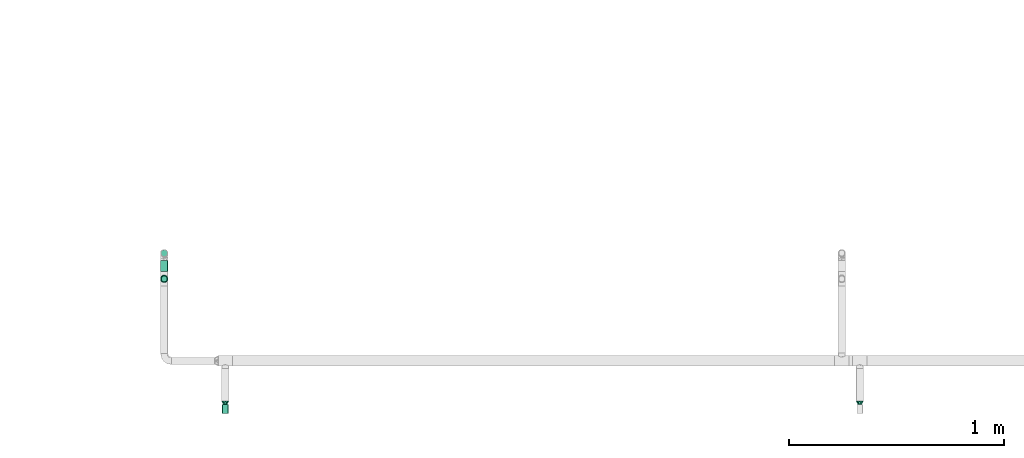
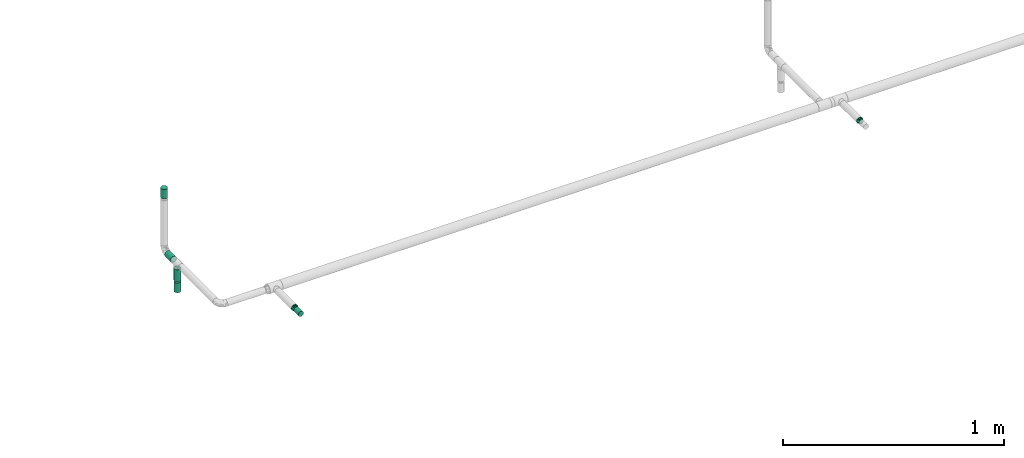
# One storey, part 21 of 51: 3 flow terminals, 2 flow fittings, 2 flow segments.
"""IFC2X3 building model written with IfcOpenShell, lengths in millimetres."""

from ifc_helpers import new_model, entity, si_unit, converted_unit, derived_unit, direction, frame, origin_with_axes, origin_2d_with_axis, place, context, subcontext, project, spatial, hollow_circle, extrude, open_shell, surface_model, source, transform, mapped, type_object, element, save


model = new_model("IFC2X3")

# Units and contexts
model_context = context("Model", 3, precision=0.01, world=frame((0.0, 4.29681676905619e-09, 0.0)), true_north=direction((4.01073788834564e-13, 1.0)))
plan_context = context("Plan", 3, precision=0.01, world=frame((0.0, 4.29681676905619e-09, 0.0)), true_north=direction((4.01073788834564e-13, 1.0)))
body_context = subcontext(model_context, "Body", "Model", "MODEL_VIEW")
ifc_project = project(units=[converted_unit("PLANEANGLEUNIT", "DEGREE", entity("IfcPositiveLengthMeasure", 0.0174532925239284), si_unit("PLANEANGLEUNIT", "RADIAN"), dimensions=[0, 0, 0, 0, 0, 0, 0]), si_unit("AREAUNIT", "SQUARE_METRE"), si_unit("LENGTHUNIT", "METRE", prefix="MILLI"), si_unit("MASSUNIT", "GRAM", prefix="KILO"), si_unit("POWERUNIT", "WATT"), si_unit("PRESSUREUNIT", "PASCAL"), si_unit("FORCEUNIT", "NEWTON", prefix="KILO"), si_unit("ELECTRICVOLTAGEUNIT", "VOLT"), si_unit("ELECTRICCURRENTUNIT", "AMPERE"), si_unit("THERMODYNAMICTEMPERATUREUNIT", "DEGREE_CELSIUS"), si_unit("TIMEUNIT", "SECOND"), si_unit("VOLUMEUNIT", "CUBIC_METRE"), derived_unit("LINEARVELOCITYUNIT", [(si_unit("LENGTHUNIT", "METRE"), 1), (si_unit("TIMEUNIT", "SECOND"), -1)]), derived_unit("VOLUMETRICFLOWRATEUNIT", [(si_unit("VOLUMEUNIT", "CUBIC_METRE"), 1), (si_unit("TIMEUNIT", "SECOND"), -1)]), derived_unit("THERMALTRANSMITTANCEUNIT", [(si_unit("POWERUNIT", "WATT"), 1), (si_unit("THERMODYNAMICTEMPERATUREUNIT", "KELVIN"), -1), (si_unit("AREAUNIT", "SQUARE_METRE"), -1)]), derived_unit("SOUNDPRESSUREUNIT", [(si_unit("PRESSUREUNIT", "PASCAL"), 1)])], contexts=[model_context, plan_context])

# Site, building, storey
site_placement = place(None, frame((0.0, -4.29681676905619e-09, 0.0), z_axis=(0.0, 0.0, 1.0), x_axis=(1.0, 0.0, 0.0)))
site = spatial("IfcSite", under=ifc_project, at=site_placement, Name="ENGM", CompositionType="ELEMENT")
building_placement = place(site_placement, frame((0.0, 4.29681676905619e-09, 0.0), z_axis=(0.0, 0.0, 1.0), x_axis=(1.0, 0.0, 0.0)))
building = spatial("IfcBuilding", under=site, at=building_placement, Name="TH", CompositionType="ELEMENT")
storey_placement = place(building_placement, frame((0.0, 0.0, 210200.0), z_axis=(0.0, 0.0, 1.0), x_axis=(1.0, 0.0, 0.0)))
storey = spatial("IfcBuildingStorey", under=building, at=storey_placement, Name="Nivå F - 0,7 m", CompositionType="ELEMENT", Elevation=210200.0)

# Flow fittings
pipe_fitting_type = type_object("IfcPipeFittingType", Name="magi_pipe_fe_reducer_centric_short_NOR", PredefinedType="TRANSITION")
shared_shape_1 = source(origin_with_axes(), body_context, "Body", "SurfaceModel", [
    surface_model("IfcShellBasedSurfaceModel", [(14.4, 5.35, -9.26647), (14.4, 0.0, -10.7), (14.4, 2.76936, -10.33541), (14.4, 10.33541, -2.76936), (14.4, 7.56604, -7.56604), (14.4, 9.26647, -5.35), (14.4, -5.35, -9.26647), (14.4, -2.76936, -10.33541), (14.4, -7.56604, -7.56604), (14.4, -10.33541, -2.76936), (14.4, -9.26647, -5.35), (14.4, 10.33541, 2.76936), (14.4, 9.26647, 5.35), (14.4, 7.56604, 7.56604), (14.4, 2.76936, 10.33541), (14.4, 5.35, 9.26647), (14.4, -7.56604, 7.56604), (14.4, -2.76936, 10.33541), (14.4, -5.35, 9.26647), (12.4, 7.56604, 7.56604), (12.4, 9.26647, 5.35), (12.4, 10.33541, 2.76936), (12.4, -2.76936, 10.33541), (12.4, -7.56604, 7.56604), (12.4, -5.35, 9.26647), (12.4, -10.33541, 2.76936), (12.4, -9.26647, 5.35), (12.4, 0.0, 10.7), (12.4, -10.33541, -2.76936), (12.4, -10.7, 0.0), (12.4, -5.35, -9.26647), (12.4, 0.0, -10.7), (12.4, -2.76936, -10.33541), (12.4, 2.76936, -10.33541), (12.4, 10.33541, -2.76936), (12.4, 10.7, 0.0), (12.4, -9.26647, -5.35), (12.4, -7.56604, -7.56604), (14.4, -10.7, 0.0), (12.4, 5.35, -9.26647), (12.4, 7.56604, -7.56604), (12.4, 9.26647, -5.35), (14.4, 10.7, 0.0), (12.4, 5.35, 9.26647), (12.4, 2.76936, 10.33541), (14.4, 0.0, 10.7), (14.4, -9.26647, 5.35), (14.4, -10.33541, 2.76936), (-2.0, 11.9501, 11.9501), (-2.0, 0.0, 16.9), (-2.0, 4.37404, 16.32415), (-2.0, 8.45, 14.63583), (-2.0, 14.63583, 8.45), (-2.0, 16.32415, 4.37404), (-2.0, -16.32415, 4.37404), (-2.0, -8.45, 14.63583), (-2.0, -14.63583, 8.45), (-2.0, -11.9501, 11.9501), (-2.0, -4.37404, 16.32415), (-2.0, -16.32415, -4.37404), (-2.0, -16.9, 0.0), (-2.0, -8.45, -14.63583), (-2.0, 16.32415, -4.37404), (-2.0, 11.9501, -11.9501), (-2.0, 14.63583, -8.45), (-2.0, 8.45, -14.63583), (-2.0, 4.37404, -16.32415), (-2.0, 0.0, -16.9), (-2.0, -11.9501, -11.9501), (-2.0, -14.63583, -8.45), (-2.0, -4.37404, -16.32415), (-2.0, 16.9, 0.0), (0.0, 4.37404, -16.32415), (0.0, 8.45, -14.63583), (0.0, 11.9501, -11.9501), (0.0, 0.0, -16.9), (0.0, 16.32415, -4.37404), (0.0, 16.32415, 4.37404), (0.0, 14.63583, -8.45), (0.0, -8.45, -14.63583), (0.0, -4.37404, -16.32415), (0.0, -11.9501, -11.9501), (0.0, -16.32415, -4.37404), (0.0, -14.63583, -8.45), (0.0, -16.32415, 4.37404), (0.0, 16.9, 0.0), (0.0, 14.63583, 8.45), (0.0, 11.9501, 11.9501), (0.0, 4.37404, 16.32415), (0.0, 8.45, 14.63583), (0.0, 0.0, 16.9), (0.0, -14.63583, 8.45), (0.0, -16.9, 0.0), (0.0, -8.45, 14.63583), (0.0, -11.9501, 11.9501), (0.0, -4.37404, 16.32415), (12.4, 9.3625, -2.31662), (0.0, 14.42505, -5.97505), (0.0, 15.66253, -2.98753), (12.4, -6.6875, -6.94985), (0.0, -13.18758, -8.96258), (0.0, 2.98753, -15.66253), (12.4, 0.0, -9.26647), (12.4, 6.6875, -6.94985), (0.0, 8.96258, -13.18758), (12.4, -9.3625, -2.31662), (0.0, -15.66253, -2.98753), (0.0, -14.42505, -5.97505), (0.0, 5.97505, -14.42505), (0.0, -2.98753, -15.66253), (0.0, -8.96258, -13.18758), (0.0, 13.18758, -8.96258), (12.4, 8.025, -4.63324), (12.4, -2.675, -9.26647), (12.4, 2.675, -9.26647), (0.0, -5.97505, -14.42505), (12.4, -8.025, -4.63324), (12.4, -9.3625, 2.31662), (0.0, -14.42505, 5.97505), (0.0, -15.66253, 2.98753), (12.4, 6.6875, 6.94985), (0.0, 13.18758, 8.96258), (0.0, -2.98753, 15.66253), (12.4, 0.0, 9.26647), (12.4, -6.6875, 6.94985), (0.0, -8.96258, 13.18758), (12.4, 9.3625, 2.31662), (0.0, 15.66253, 2.98753), (0.0, 14.42505, 5.97505), (0.0, -5.97505, 14.42505), (0.0, 2.98753, 15.66253), (0.0, 8.96258, 13.18758), (0.0, -13.18758, 8.96258), (12.4, -8.025, 4.63324), (12.4, 2.675, 9.26647), (12.4, -2.675, 9.26647), (0.0, 5.97505, 14.42505), (12.4, 8.025, 4.63324)], [open_shell([[[0, 1, 2]], [[3, 0, 4]], [[3, 4, 5]], [[1, 6, 7]], [[1, 0, 6]], [[8, 9, 10]], [[9, 8, 6]], [[11, 12, 13]], [[14, 13, 15]], [[16, 17, 18]], [[19, 20, 21]], [[22, 23, 24]], [[23, 22, 25]], [[23, 25, 26]], [[22, 27, 25]], [[25, 28, 29]], [[30, 31, 32]], [[30, 28, 33]], [[33, 31, 30]], [[34, 21, 35]], [[28, 9, 29]], [[36, 10, 28]], [[6, 37, 30]], [[36, 37, 8]], [[7, 30, 32]], [[28, 10, 9]], [[9, 38, 29]], [[7, 6, 30]], [[8, 37, 6]], [[8, 10, 36]], [[1, 7, 32]], [[32, 31, 1]], [[33, 2, 31]], [[39, 0, 33]], [[5, 40, 41]], [[39, 40, 4]], [[3, 41, 34]], [[39, 4, 0]], [[0, 2, 33]], [[42, 3, 34]], [[5, 41, 3]], [[5, 4, 40]], [[35, 42, 34]], [[31, 2, 1]], [[21, 11, 35]], [[20, 12, 21]], [[15, 19, 43]], [[20, 19, 13]], [[14, 43, 44]], [[21, 12, 11]], [[11, 42, 35]], [[14, 15, 43]], [[13, 19, 15]], [[13, 12, 20]], [[45, 14, 44]], [[44, 27, 45]], [[22, 17, 27]], [[24, 18, 22]], [[46, 23, 26]], [[24, 23, 16]], [[47, 26, 25]], [[24, 16, 18]], [[18, 17, 22]], [[38, 47, 25]], [[46, 26, 47]], [[46, 16, 23]], [[29, 38, 25]], [[27, 17, 45]], [[48, 49, 50]], [[48, 50, 51]], [[48, 52, 53]], [[48, 53, 49]], [[49, 53, 54]], [[55, 56, 57]], [[55, 58, 49]], [[56, 55, 49]], [[49, 54, 56]], [[54, 59, 60]], [[54, 53, 61]], [[53, 62, 63]], [[63, 62, 64]], [[63, 65, 66]], [[61, 53, 63]], [[67, 63, 66]], [[59, 68, 69]], [[68, 59, 61]], [[61, 67, 70]], [[59, 54, 61]], [[63, 67, 61]], [[53, 71, 62]], [[72, 73, 74]], [[75, 72, 74]], [[74, 76, 77]], [[76, 74, 78]], [[74, 77, 79]], [[75, 79, 80]], [[75, 74, 79]], [[81, 82, 83]], [[82, 81, 79]], [[79, 84, 82]], [[77, 76, 85]], [[77, 86, 87]], [[77, 87, 88]], [[88, 84, 79]], [[88, 87, 89]], [[84, 88, 90]], [[90, 91, 84]], [[92, 82, 84]], [[91, 93, 94]], [[91, 90, 93]], [[93, 90, 95]], [[79, 77, 88]], [[59, 82, 60]], [[69, 83, 59]], [[79, 68, 61]], [[69, 68, 81]], [[80, 61, 70]], [[59, 83, 82]], [[82, 92, 60]], [[80, 79, 61]], [[81, 68, 79]], [[81, 83, 69]], [[75, 80, 70]], [[70, 67, 75]], [[66, 72, 67]], [[65, 73, 66]], [[78, 63, 64]], [[65, 63, 74]], [[76, 64, 62]], [[65, 74, 73]], [[73, 72, 66]], [[85, 76, 62]], [[78, 64, 76]], [[78, 74, 63]], [[71, 85, 62]], [[67, 72, 75]], [[53, 77, 71]], [[52, 86, 53]], [[89, 48, 51]], [[52, 48, 87]], [[88, 51, 50]], [[53, 86, 77]], [[77, 85, 71]], [[88, 89, 51]], [[87, 48, 89]], [[87, 86, 52]], [[90, 88, 50]], [[50, 49, 90]], [[58, 95, 49]], [[55, 93, 58]], [[91, 57, 56]], [[55, 57, 94]], [[84, 56, 54]], [[55, 94, 93]], [[93, 95, 58]], [[92, 84, 54]], [[91, 56, 84]], [[91, 94, 57]], [[60, 92, 54]], [[49, 95, 90]], [[43, 24, 35]], [[35, 24, 30]], [[30, 39, 35]], [[30, 24, 29]], [[87, 74, 92]], [[75, 92, 74]], [[81, 92, 75]], [[74, 87, 85]], [[96, 97, 98]], [[81, 99, 100]], [[101, 102, 75]], [[98, 85, 35]], [[74, 103, 104]], [[104, 103, 39]], [[105, 106, 107]], [[39, 108, 104]], [[102, 109, 75]], [[110, 99, 81]], [[35, 96, 98]], [[103, 111, 112]], [[109, 102, 113]], [[29, 92, 106]], [[102, 101, 114]], [[110, 115, 30]], [[96, 112, 97]], [[107, 116, 105]], [[29, 106, 105]], [[113, 115, 109]], [[30, 115, 113]], [[116, 107, 100]], [[108, 39, 114]], [[111, 103, 74]], [[111, 97, 112]], [[99, 110, 30]], [[116, 100, 99]], [[101, 108, 114]], [[117, 118, 119]], [[87, 120, 121]], [[122, 123, 90]], [[119, 92, 29]], [[94, 124, 125]], [[125, 124, 24]], [[126, 127, 128]], [[24, 129, 125]], [[123, 130, 90]], [[131, 120, 87]], [[29, 117, 119]], [[124, 132, 133]], [[130, 123, 134]], [[35, 85, 127]], [[123, 122, 135]], [[131, 136, 43]], [[117, 133, 118]], [[128, 137, 126]], [[35, 127, 126]], [[134, 136, 130]], [[43, 136, 134]], [[137, 128, 121]], [[129, 24, 135]], [[132, 124, 94]], [[132, 118, 133]], [[120, 131, 43]], [[137, 121, 120]], [[122, 129, 135]], [[6, 0, 3]], [[46, 6, 3]], [[6, 46, 9]], [[11, 3, 42]], [[3, 13, 46]], [[14, 45, 13]], [[46, 13, 45]], [[9, 47, 38]], [[46, 47, 9]], [[17, 16, 46]], [[45, 17, 46]], [[3, 11, 13]], [[27, 44, 43]], [[27, 43, 19]], [[27, 19, 25]], [[34, 25, 19]], [[34, 19, 21]], [[28, 25, 34]], [[33, 34, 41]], [[40, 39, 33]], [[40, 33, 41]], [[28, 34, 33]], [[28, 37, 36]], [[37, 28, 30]], [[90, 87, 92]], [[92, 94, 90]]])]),
])
flow_fitting_1_placement = place(storey_placement, frame((903449.82472, 480835.45237, 2700.0), z_axis=(0.0, 0.0, 1.0), x_axis=(0.0, -1.0, 0.0)))
element("IfcFlowFitting", 1, at=flow_fitting_1_placement, inside=storey, type_object=pipe_fitting_type, Name="magi_pipe_fe_reducer_centric_short_NOR", context=body_context, shape_type="MappedRepresentation", body=[
    mapped(shared_shape_1, transform((0.0, 0.0, 0.0), scale=1.0)),
])
shared_shape_2 = source(origin_with_axes(), body_context, "Body", "SurfaceModel", [
    surface_model("IfcShellBasedSurfaceModel", [(14.4, 4.37404, -16.32415), (14.4, 8.45, -14.63583), (14.4, 11.9501, -11.9501), (14.4, -8.45, -14.63583), (14.4, 16.32415, -4.37404), (14.4, 16.32415, 4.37404), (14.4, 14.63583, -8.45), (14.4, 0.0, -16.9), (14.4, -4.37404, -16.32415), (14.4, -11.9501, -11.9501), (14.4, -16.32415, -4.37404), (14.4, -14.63583, -8.45), (14.4, -16.32415, 4.37404), (14.4, 16.9, 0.0), (14.4, 14.63583, 8.45), (14.4, 11.9501, 11.9501), (14.4, 4.37404, 16.32415), (14.4, 8.45, 14.63583), (14.4, 0.0, 16.9), (14.4, -14.63583, 8.45), (14.4, -16.9, 0.0), (14.4, -8.45, 14.63583), (14.4, -11.9501, 11.9501), (14.4, -4.37404, 16.32415), (12.4, 4.37404, 16.32415), (12.4, -14.63583, 8.45), (12.4, 0.0, 16.9), (12.4, 16.32415, 4.37404), (12.4, 8.45, 14.63583), (12.4, 11.9501, 11.9501), (12.4, 14.63583, 8.45), (12.4, -8.45, 14.63583), (12.4, -11.9501, 11.9501), (12.4, -4.37404, 16.32415), (12.4, -16.32415, 4.37404), (12.4, -16.32415, -4.37404), (12.4, -16.9, 0.0), (12.4, -8.45, -14.63583), (12.4, 16.32415, -4.37404), (12.4, 11.9501, -11.9501), (12.4, 14.63583, -8.45), (12.4, 8.45, -14.63583), (12.4, 4.37404, -16.32415), (12.4, 0.0, -16.9), (12.4, -11.9501, -11.9501), (12.4, -14.63583, -8.45), (12.4, -4.37404, -16.32415), (12.4, 16.9, 0.0), (-2.0, 10.33541, 2.76936), (-2.0, 0.0, 10.7), (-2.0, 2.76936, 10.33541), (-2.0, 7.56604, 7.56604), (-2.0, 5.35, 9.26647), (-2.0, 9.26647, 5.35), (-2.0, -9.26647, 5.35), (-2.0, -2.76936, 10.33541), (-2.0, -7.56604, 7.56604), (-2.0, -5.35, 9.26647), (-2.0, -10.33541, 2.76936), (-2.0, -10.33541, -2.76936), (-2.0, -10.7, 0.0), (-2.0, 10.33541, -2.76936), (-2.0, 7.56604, -7.56604), (-2.0, 9.26647, -5.35), (-2.0, 5.35, -9.26647), (-2.0, -5.35, -9.26647), (-2.0, 2.76936, -10.33541), (-2.0, -7.56604, -7.56604), (-2.0, -9.26647, -5.35), (-2.0, 0.0, -10.7), (-2.0, -2.76936, -10.33541), (-2.0, 10.7, 0.0), (0.0, 5.35, -9.26647), (0.0, 0.0, -10.7), (0.0, 2.76936, -10.33541), (0.0, 10.33541, -2.76936), (0.0, 7.56604, -7.56604), (0.0, -5.35, -9.26647), (0.0, 9.26647, -5.35), (0.0, -9.26647, 5.35), (0.0, -2.76936, -10.33541), (0.0, -7.56604, -7.56604), (0.0, -10.33541, -2.76936), (0.0, -9.26647, -5.35), (0.0, 10.33541, 2.76936), (0.0, 10.7, 0.0), (0.0, 9.26647, 5.35), (0.0, 7.56604, 7.56604), (0.0, 2.76936, 10.33541), (0.0, 0.0, 10.7), (0.0, 5.35, 9.26647), (0.0, -10.33541, 2.76936), (0.0, -10.7, 0.0), (0.0, -7.56604, 7.56604), (0.0, -2.76936, 10.33541), (0.0, -5.35, 9.26647), (0.0, -9.3625, -2.31662), (12.4, -14.42505, -5.97505), (12.4, -15.66253, -2.98753), (0.0, 6.6875, -6.94985), (12.4, 8.96258, -13.18758), (0.0, -6.6875, -6.94985), (12.4, -8.96258, -13.18758), (0.0, 9.3625, -2.31662), (12.4, 15.66253, -2.98753), (12.4, 14.42505, -5.97505), (12.4, -5.97505, -14.42505), (12.4, 5.97505, -14.42505), (0.0, 2.675, -9.26647), (12.4, 13.18758, -8.96258), (0.0, -2.675, -9.26647), (12.4, -13.18758, -8.96258), (0.0, -8.025, -4.63324), (12.4, 2.98753, -15.66253), (0.0, 0.0, -9.26647), (12.4, -2.98753, -15.66253), (0.0, 8.025, -4.63324), (0.0, 9.3625, 2.31662), (12.4, 14.42505, 5.97505), (12.4, 15.66253, 2.98753), (0.0, -6.6875, 6.94985), (12.4, -8.96258, 13.18758), (0.0, 6.6875, 6.94985), (12.4, 8.96258, 13.18758), (0.0, -9.3625, 2.31662), (12.4, -15.66253, 2.98753), (12.4, -14.42505, 5.97505), (12.4, 5.97505, 14.42505), (12.4, -5.97505, 14.42505), (0.0, -2.675, 9.26647), (12.4, -13.18758, 8.96258), (0.0, 2.675, 9.26647), (12.4, 13.18758, 8.96258), (0.0, 8.025, 4.63324), (12.4, -2.98753, 15.66253), (0.0, 0.0, 9.26647), (12.4, 2.98753, 15.66253), (0.0, -8.025, 4.63324)], [open_shell([[[0, 1, 2]], [[3, 0, 2]], [[2, 4, 5]], [[4, 2, 6]], [[2, 5, 3]], [[7, 3, 8]], [[7, 0, 3]], [[9, 10, 11]], [[10, 9, 3]], [[3, 12, 10]], [[5, 4, 13]], [[5, 14, 15]], [[5, 15, 16]], [[16, 12, 3]], [[16, 15, 17]], [[12, 16, 18]], [[18, 19, 12]], [[20, 10, 12]], [[19, 21, 22]], [[19, 18, 21]], [[21, 18, 23]], [[3, 5, 16]], [[24, 25, 26]], [[27, 24, 28]], [[29, 30, 27]], [[29, 27, 28]], [[25, 24, 27]], [[31, 25, 32]], [[31, 33, 26]], [[26, 25, 31]], [[34, 25, 27]], [[34, 35, 36]], [[34, 27, 37]], [[27, 38, 39]], [[39, 38, 40]], [[39, 41, 42]], [[37, 27, 39]], [[42, 43, 39]], [[35, 44, 45]], [[44, 35, 37]], [[37, 43, 46]], [[35, 34, 37]], [[39, 43, 37]], [[38, 27, 47]], [[35, 10, 36]], [[45, 11, 35]], [[3, 44, 37]], [[45, 44, 9]], [[8, 37, 46]], [[35, 11, 10]], [[10, 20, 36]], [[8, 3, 37]], [[9, 44, 3]], [[9, 11, 45]], [[7, 8, 46]], [[46, 43, 7]], [[42, 0, 43]], [[41, 1, 42]], [[6, 39, 40]], [[41, 39, 2]], [[4, 40, 38]], [[41, 2, 1]], [[1, 0, 42]], [[13, 4, 38]], [[6, 40, 4]], [[6, 2, 39]], [[47, 13, 38]], [[43, 0, 7]], [[27, 5, 47]], [[30, 14, 27]], [[17, 29, 28]], [[30, 29, 15]], [[16, 28, 24]], [[27, 14, 5]], [[5, 13, 47]], [[16, 17, 28]], [[15, 29, 17]], [[15, 14, 30]], [[18, 16, 24]], [[24, 26, 18]], [[33, 23, 26]], [[31, 21, 33]], [[19, 32, 25]], [[31, 32, 22]], [[12, 25, 34]], [[31, 22, 21]], [[21, 23, 33]], [[20, 12, 34]], [[19, 25, 12]], [[19, 22, 32]], [[36, 20, 34]], [[26, 23, 18]], [[48, 49, 50]], [[51, 50, 52]], [[51, 53, 48]], [[51, 48, 50]], [[49, 48, 54]], [[55, 56, 57]], [[56, 55, 54]], [[58, 59, 60]], [[54, 55, 49]], [[58, 54, 59]], [[54, 48, 61]], [[59, 54, 61]], [[62, 61, 63]], [[59, 62, 64]], [[61, 62, 59]], [[65, 64, 66]], [[59, 67, 68]], [[67, 59, 65]], [[65, 69, 70]], [[65, 59, 64]], [[66, 69, 65]], [[61, 48, 71]], [[72, 73, 74]], [[75, 72, 76]], [[77, 72, 75]], [[75, 76, 78]], [[79, 77, 75]], [[73, 77, 80]], [[73, 72, 77]], [[81, 82, 83]], [[82, 81, 77]], [[77, 79, 82]], [[84, 75, 85]], [[84, 86, 87]], [[75, 87, 79]], [[88, 89, 87]], [[88, 87, 90]], [[79, 87, 89]], [[82, 91, 92]], [[79, 91, 82]], [[93, 94, 95]], [[94, 93, 79]], [[89, 94, 79]], [[75, 84, 87]], [[59, 82, 60]], [[68, 83, 59]], [[77, 67, 65]], [[68, 67, 81]], [[80, 65, 70]], [[59, 83, 82]], [[82, 92, 60]], [[80, 77, 65]], [[81, 67, 77]], [[81, 83, 68]], [[73, 80, 70]], [[70, 69, 73]], [[66, 74, 69]], [[64, 72, 66]], [[78, 62, 63]], [[64, 62, 76]], [[75, 63, 61]], [[64, 76, 72]], [[72, 74, 66]], [[85, 75, 61]], [[78, 63, 75]], [[78, 76, 62]], [[71, 85, 61]], [[69, 74, 73]], [[48, 84, 71]], [[53, 86, 48]], [[90, 51, 52]], [[53, 51, 87]], [[88, 52, 50]], [[48, 86, 84]], [[84, 85, 71]], [[88, 90, 52]], [[87, 51, 90]], [[87, 86, 53]], [[89, 88, 50]], [[50, 49, 89]], [[55, 94, 49]], [[57, 95, 55]], [[79, 56, 54]], [[57, 56, 93]], [[91, 54, 58]], [[57, 93, 95]], [[95, 94, 55]], [[92, 91, 58]], [[79, 54, 91]], [[79, 93, 56]], [[60, 92, 58]], [[49, 94, 89]], [[29, 26, 39]], [[39, 47, 29]], [[36, 26, 32]], [[36, 44, 43]], [[43, 39, 36]], [[36, 39, 26]], [[92, 95, 77]], [[85, 95, 90]], [[85, 72, 77]], [[85, 77, 95]], [[96, 97, 98]], [[92, 96, 98]], [[99, 100, 72]], [[98, 36, 92]], [[44, 101, 102]], [[101, 77, 102]], [[103, 104, 105]], [[85, 47, 104]], [[77, 106, 102]], [[107, 108, 72]], [[109, 39, 99]], [[106, 77, 110]], [[101, 111, 112]], [[113, 114, 108]], [[100, 99, 39]], [[110, 115, 106]], [[99, 116, 109]], [[100, 107, 72]], [[96, 112, 97]], [[105, 116, 103]], [[85, 104, 103]], [[108, 107, 113]], [[113, 43, 114]], [[116, 105, 109]], [[114, 115, 110]], [[43, 115, 114]], [[111, 101, 44]], [[111, 97, 112]], [[117, 118, 119]], [[85, 117, 119]], [[120, 121, 95]], [[119, 47, 85]], [[29, 122, 123]], [[122, 90, 123]], [[124, 125, 126]], [[92, 36, 125]], [[90, 127, 123]], [[128, 129, 95]], [[130, 32, 120]], [[127, 90, 131]], [[122, 132, 133]], [[134, 135, 129]], [[121, 120, 32]], [[131, 136, 127]], [[120, 137, 130]], [[121, 128, 95]], [[117, 133, 118]], [[126, 137, 124]], [[92, 125, 124]], [[129, 128, 134]], [[134, 26, 135]], [[137, 126, 130]], [[135, 136, 131]], [[26, 136, 135]], [[132, 122, 29]], [[132, 118, 133]]])]),
])
flow_fitting_2_placement = place(storey_placement, frame((900499.82472, 480823.05237, 2700.0), z_axis=(0.0, 0.0, 1.0), x_axis=(0.0, 1.0, 0.0)))
element("IfcFlowFitting", 2, at=flow_fitting_2_placement, inside=storey, type_object=pipe_fitting_type, Name="magi_pipe_fe_reducer_centric_short_NOR", context=body_context, shape_type="MappedRepresentation", body=[
    mapped(shared_shape_2, transform((0.0, 0.0, 0.0), scale=1.0)),
])

# Flow segments
pipe_segment_type = type_object("IfcPipeSegmentType", Name="Stålrør normaltykke", PredefinedType="RIGIDSEGMENT")
shared_shape_3 = source(origin_with_axes(), body_context, "Body", "SweptSolid", [
    extrude(hollow_circle(Radius=16.9, WallThickness=2.0, at=origin_2d_with_axis()), frame((0.0, 0.0, 0.0), z_axis=(1.0, 0.0, 0.0), x_axis=(0.0, 1.0, 0.0)), (0.0, 0.0, 1.0), 65.3),
])
flow_segment_1_placement = place(storey_placement, frame((900216.02472, 481404.39138, 2609.35200000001), z_axis=(0.0, -1.0, 0.0), x_axis=(0.0, 0.0, 1.0)))
element("IfcFlowSegment", 3, at=flow_segment_1_placement, inside=storey, type_object=pipe_segment_type, Name="Stålrør normaltykke", context=body_context, shape_type="MappedRepresentation", body=[
    mapped(shared_shape_3, transform((0.0, 0.0, 0.0), scale=1.0)),
])
shared_shape_4 = source(origin_with_axes(), body_context, "Body", "SweptSolid", [
    extrude(hollow_circle(Radius=16.9, WallThickness=2.0, at=origin_2d_with_axis()), frame((0.0, 0.0, 0.0), z_axis=(1.0, 0.0, 0.0), x_axis=(0.0, 1.0, 0.0)), (0.0, 0.0, 1.0), 52.0),
])
flow_segment_2_placement = place(storey_placement, frame((900216.02472, 481438.19138, 2700.0), z_axis=(0.0, 0.0, 1.0), x_axis=(0.0, 1.0, 0.0)))
element("IfcFlowSegment", 4, at=flow_segment_2_placement, inside=storey, type_object=pipe_segment_type, Name="Stålrør normaltykke", context=body_context, shape_type="MappedRepresentation", body=[
    mapped(shared_shape_4, transform((0.0, 0.0, 0.0), scale=1.0)),
])

# Flow terminals
fire_suppression_terminal_type_1 = type_object("IfcFireSuppressionTerminalType", Name="SP-15-K80-68DGR-STD-STÅENDE", PredefinedType="NOTDEFINED")
shared_shape_5 = source(origin_with_axes(), body_context, "Body", "SurfaceModel", [
    surface_model("IfcShellBasedSurfaceModel", [(4.1411, -15.45481, 53.0), (8.0, -13.85641, 53.0), (11.31371, -11.31371, 53.0), (-8.0, -13.85641, 53.0), (15.45481, -4.1411, 53.0), (16.0, 0.0, 53.0), (13.85641, -8.0, 53.0), (0.0, -16.0, 53.0), (-4.1411, -15.45481, 53.0), (-13.85641, -8.0, 53.0), (-11.31371, -11.31371, 53.0), (-15.45481, -4.1411, 53.0), (15.45481, 4.1411, 53.0), (13.85641, 8.0, 53.0), (11.31371, 11.31371, 53.0), (-4.1411, 15.45481, 53.0), (8.0, 13.85641, 53.0), (4.1411, 15.45481, 53.0), (0.0, 16.0, 53.0), (-13.85641, 8.0, 53.0), (-15.45481, 4.1411, 53.0), (-16.0, 0.0, 53.0), (-11.31371, 11.31371, 53.0), (-8.0, 13.85641, 53.0), (0.0, 16.0, 0.0), (4.1411, 15.45481, 0.0), (8.0, 13.85641, 0.0), (-4.1411, 15.45481, 0.0), (11.31371, 11.31371, 0.0), (13.85641, 8.0, 0.0), (15.45481, 4.1411, 0.0), (-15.45481, -4.1411, 0.0), (-11.31371, 11.31371, 0.0), (-8.0, 13.85641, 0.0), (-13.85641, 8.0, 0.0), (-15.45481, 4.1411, 0.0), (-16.0, 0.0, 0.0), (4.1411, -15.45481, 0.0), (16.0, 0.0, 0.0), (15.45481, -4.1411, 0.0), (13.85641, -8.0, 0.0), (11.31371, -11.31371, 0.0), (8.0, -13.85641, 0.0), (-8.0, -13.85641, 0.0), (-13.85641, -8.0, 0.0), (-11.31371, -11.31371, 0.0), (0.0, -16.0, 0.0), (-4.1411, -15.45481, 0.0)], [open_shell([[[0, 1, 2]], [[3, 0, 2]], [[4, 5, 2]], [[4, 2, 6]], [[3, 2, 5]], [[7, 3, 8]], [[7, 0, 3]], [[3, 9, 10]], [[9, 3, 11]], [[5, 11, 3]], [[5, 12, 11]], [[12, 13, 14]], [[15, 12, 14]], [[16, 17, 18]], [[14, 16, 15]], [[18, 15, 16]], [[11, 19, 20]], [[21, 11, 20]], [[22, 15, 23]], [[15, 22, 19]], [[19, 11, 15]], [[11, 12, 15]], [[24, 25, 26]], [[27, 24, 26]], [[28, 29, 30]], [[27, 26, 28]], [[27, 28, 31]], [[27, 32, 33]], [[32, 27, 34]], [[34, 31, 35]], [[31, 34, 27]], [[35, 31, 36]], [[28, 30, 31]], [[37, 38, 39]], [[37, 39, 40]], [[41, 42, 37]], [[41, 37, 40]], [[38, 37, 43]], [[44, 43, 45]], [[43, 44, 31]], [[43, 46, 47]], [[43, 31, 38]], [[37, 46, 43]], [[38, 31, 30]], [[11, 31, 44]], [[45, 9, 44]], [[3, 43, 47]], [[45, 43, 10]], [[8, 47, 46]], [[31, 21, 36]], [[31, 11, 21]], [[44, 9, 11]], [[45, 10, 9]], [[3, 10, 43]], [[47, 8, 3]], [[46, 7, 8]], [[0, 37, 42]], [[41, 1, 42]], [[6, 40, 39]], [[41, 40, 2]], [[4, 39, 38]], [[37, 0, 7]], [[42, 1, 0]], [[41, 2, 1]], [[40, 6, 2]], [[4, 6, 39]], [[38, 5, 4]], [[37, 7, 46]], [[12, 38, 30]], [[13, 30, 29]], [[16, 26, 25]], [[17, 25, 24]], [[30, 13, 12]], [[12, 5, 38]], [[28, 14, 13]], [[28, 26, 14]], [[14, 26, 16]], [[25, 17, 16]], [[28, 13, 29]], [[24, 18, 17]], [[15, 27, 33]], [[32, 23, 33]], [[19, 34, 35]], [[32, 34, 22]], [[20, 35, 36]], [[27, 15, 18]], [[33, 23, 15]], [[32, 22, 23]], [[34, 19, 22]], [[20, 19, 35]], [[36, 21, 20]], [[27, 18, 24]]])]),
])
flow_terminal_1_placement = place(storey_placement, frame((900216.02472, 481524.00985, 2992.0), z_axis=(0.0, 0.0, 1.0), x_axis=(1.0, 0.0, 0.0)))
element("IfcFlowTerminal", 5, at=flow_terminal_1_placement, inside=storey, type_object=fire_suppression_terminal_type_1, Name="SP-15-K80-68DGR-STD-STÅENDE", context=body_context, shape_type="MappedRepresentation", body=[
    mapped(shared_shape_5, transform((0.0, 0.0, 0.0), scale=1.0)),
])
fire_suppression_terminal_type_2 = type_object("IfcFireSuppressionTerminalType", Name="SP-15-K80-68DGR-STD-HIMLING", PredefinedType="NOTDEFINED")
flow_terminal_2_placement = place(storey_placement, frame((900216.02472, 481404.39138, 2600.0), z_axis=(0.0, 0.0, -1.0), x_axis=(-1.0, 0.0, 0.0)))
element("IfcFlowTerminal", 6, at=flow_terminal_2_placement, inside=storey, type_object=fire_suppression_terminal_type_2, Name="SP-15-K80-68DGR-STD-HIMLING", context=body_context, shape_type="MappedRepresentation", body=[
    mapped(shared_shape_5, transform((0.0, 0.0, 0.0), scale=1.0)),
])
fire_suppression_terminal_type_3 = type_object("IfcFireSuppressionTerminalType", Name="XW-15-K80-68DGR-QR", PredefinedType="NOTDEFINED")
shared_shape_6 = source(origin_with_axes(), body_context, "Body", "SurfaceModel", [
    surface_model("IfcShellBasedSurfaceModel", [(42.0, 3.62347, -13.52296), (42.0, 7.0, -12.12436), (42.0, 9.89949, -9.89949), (42.0, -13.52296, -3.62347), (42.0, 13.52296, -3.62347), (42.0, 12.12436, -7.0), (42.0, 13.52296, 3.62347), (42.0, 0.0, -14.0), (42.0, -7.0, -12.12436), (42.0, -3.62347, -13.52296), (42.0, -9.89949, -9.89949), (42.0, -12.12436, -7.0), (42.0, 14.0, 0.0), (42.0, 12.12436, 7.0), (42.0, 9.89949, 9.89949), (42.0, 7.0, 12.12436), (42.0, 3.62347, 13.52296), (42.0, 0.0, 14.0), (42.0, -3.62347, 13.52296), (42.0, -13.52296, 3.62347), (42.0, -14.0, 0.0), (42.0, -12.12436, 7.0), (42.0, -9.89949, 9.89949), (42.0, -7.0, 12.12436), (0.0, 0.0, 14.0), (0.0, 3.62347, 13.52296), (0.0, 7.0, 12.12436), (0.0, -3.62347, 13.52296), (0.0, 9.89949, 9.89949), (0.0, 12.12436, 7.0), (0.0, 13.52296, 3.62347), (0.0, -9.89949, 9.89949), (0.0, -7.0, 12.12436), (0.0, -12.12436, 7.0), (0.0, -13.52296, -3.62347), (0.0, -13.52296, 3.62347), (0.0, -14.0, 0.0), (0.0, 13.52296, -3.62347), (0.0, 9.89949, -9.89949), (0.0, 12.12436, -7.0), (0.0, 7.0, -12.12436), (0.0, 3.62347, -13.52296), (0.0, -9.89949, -9.89949), (0.0, -12.12436, -7.0), (0.0, -7.0, -12.12436), (0.0, 0.0, -14.0), (0.0, -3.62347, -13.52296), (0.0, 14.0, 0.0)], [open_shell([[[0, 1, 2]], [[3, 0, 2]], [[3, 2, 4]], [[4, 2, 5]], [[6, 3, 4]], [[7, 8, 9]], [[7, 0, 8]], [[10, 3, 11]], [[3, 10, 8]], [[0, 3, 8]], [[4, 12, 6]], [[6, 13, 14]], [[6, 14, 15]], [[15, 16, 17]], [[15, 17, 6]], [[6, 17, 18]], [[3, 19, 20]], [[21, 19, 3]], [[22, 18, 23]], [[18, 22, 21]], [[18, 21, 3]], [[3, 6, 18]], [[24, 25, 26]], [[27, 24, 26]], [[28, 29, 30]], [[28, 30, 26]], [[27, 26, 30]], [[27, 31, 32]], [[31, 27, 33]], [[33, 34, 35]], [[36, 35, 34]], [[27, 34, 33]], [[27, 30, 37]], [[34, 27, 37]], [[38, 37, 39]], [[38, 40, 41]], [[37, 38, 34]], [[41, 34, 38]], [[34, 42, 43]], [[42, 34, 44]], [[44, 45, 46]], [[44, 34, 41]], [[41, 45, 44]], [[37, 30, 47]], [[3, 34, 43]], [[42, 11, 43]], [[8, 44, 46]], [[42, 44, 10]], [[9, 46, 45]], [[34, 20, 36]], [[34, 3, 20]], [[43, 11, 3]], [[42, 10, 11]], [[8, 10, 44]], [[46, 9, 8]], [[45, 7, 9]], [[0, 41, 40]], [[38, 1, 40]], [[5, 39, 37]], [[38, 39, 2]], [[4, 37, 47]], [[41, 0, 7]], [[40, 1, 0]], [[38, 2, 1]], [[39, 5, 2]], [[4, 5, 37]], [[47, 12, 4]], [[41, 7, 45]], [[6, 47, 30]], [[29, 13, 30]], [[15, 26, 25]], [[16, 25, 24]], [[30, 13, 6]], [[6, 12, 47]], [[14, 28, 15]], [[14, 13, 29]], [[15, 28, 26]], [[25, 16, 15]], [[14, 29, 28]], [[24, 17, 16]], [[18, 27, 32]], [[31, 23, 32]], [[21, 33, 35]], [[31, 33, 22]], [[19, 35, 36]], [[27, 18, 17]], [[32, 23, 18]], [[31, 22, 23]], [[33, 21, 22]], [[19, 21, 35]], [[36, 20, 19]], [[27, 17, 24]]])]),
])
flow_terminal_3_placement = place(storey_placement, frame((900499.82472, 480820.00437, 2700.0), z_axis=(0.0, 0.0, 1.0), x_axis=(0.0, -1.0, 0.0)))
element("IfcFlowTerminal", 7, at=flow_terminal_3_placement, inside=storey, type_object=fire_suppression_terminal_type_3, Name="XW-15-K80-68DGR-QR", context=body_context, shape_type="MappedRepresentation", body=[
    mapped(shared_shape_6, transform((0.0, 0.0, 0.0), scale=1.0)),
])

save(model, "model.ifc")
